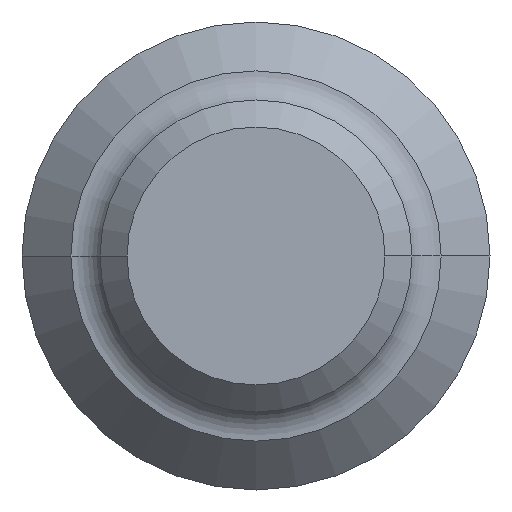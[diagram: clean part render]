
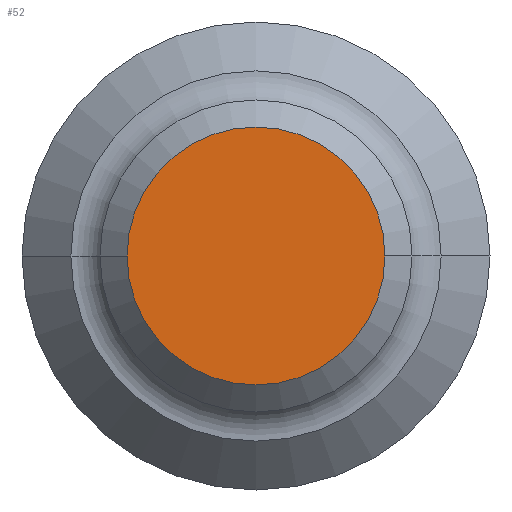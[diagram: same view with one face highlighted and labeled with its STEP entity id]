
A CAD part, left-side view. The second image highlights one B-rep face of the part: STEP entity #52.
In plain terms, the highlighted planar face has unit normal (-1, 0, 0).
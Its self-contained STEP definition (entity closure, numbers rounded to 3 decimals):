
#11 = CARTESIAN_POINT ( 'NONE',  ( -51.587, 0., 0. ) ) ;
#24 = ORIENTED_EDGE ( 'NONE', *, *, #57, .F. ) ;
#26 = DIRECTION ( 'NONE',  ( 0., 1., 0. ) ) ;
#52 = ADVANCED_FACE ( 'NONE', ( #407 ), #498, .F. ) ;
#53 = DIRECTION ( 'NONE',  ( 1., 0., 0. ) ) ;
#57 = EDGE_CURVE ( 'NONE', #323, #205, #508, .T. ) ;
#168 = EDGE_CURVE ( 'NONE', #205, #323, #171, .T. ) ;
#171 = CIRCLE ( 'NONE', #441, 7.874 ) ;
#199 = DIRECTION ( 'NONE',  ( 0., 1., 0. ) ) ;
#205 = VERTEX_POINT ( 'NONE', #361 ) ;
#252 = DIRECTION ( 'NONE',  ( 0., 1., 0. ) ) ;
#311 = AXIS2_PLACEMENT_3D ( 'NONE', #329, #486, #252 ) ;
#317 = AXIS2_PLACEMENT_3D ( 'NONE', #11, #554, #26 ) ;
#323 = VERTEX_POINT ( 'NONE', #456 ) ;
#329 = CARTESIAN_POINT ( 'NONE',  ( -51.587, 0., 0. ) ) ;
#361 = CARTESIAN_POINT ( 'NONE',  ( -51.587, 7.874, 0. ) ) ;
#407 = FACE_OUTER_BOUND ( 'NONE', #535, .T. ) ;
#412 = CARTESIAN_POINT ( 'NONE',  ( -51.587, 0., 0. ) ) ;
#441 = AXIS2_PLACEMENT_3D ( 'NONE', #412, #53, #199 ) ;
#456 = CARTESIAN_POINT ( 'NONE',  ( -51.587, -7.874, 0. ) ) ;
#467 = ORIENTED_EDGE ( 'NONE', *, *, #168, .F. ) ;
#486 = DIRECTION ( 'NONE',  ( 1., 0., 0. ) ) ;
#498 = PLANE ( 'NONE',  #311 ) ;
#508 = CIRCLE ( 'NONE', #317, 7.874 ) ;
#535 = EDGE_LOOP ( 'NONE', ( #467, #24 ) ) ;
#554 = DIRECTION ( 'NONE',  ( 1., 0., 0. ) ) ;
